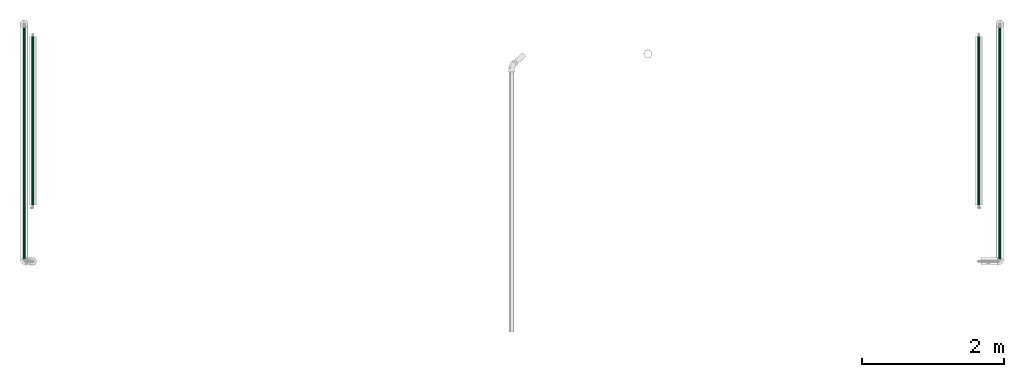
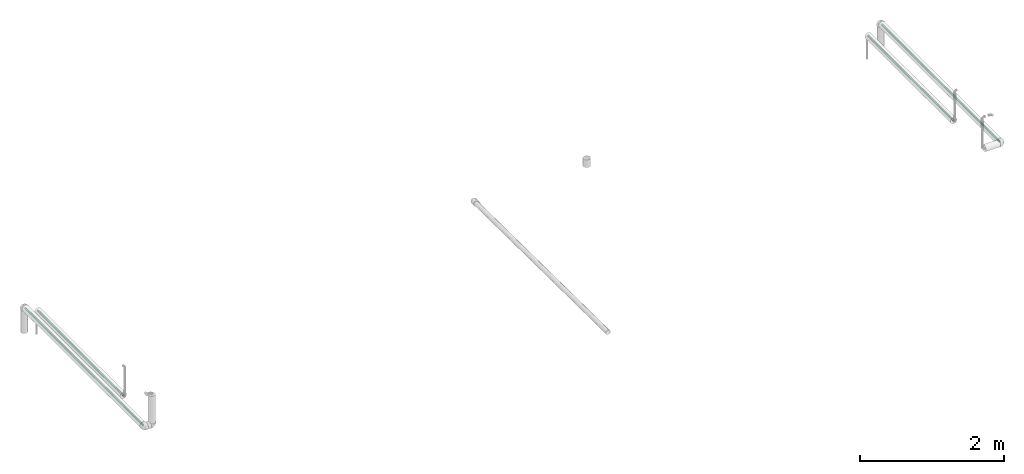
# One storey, part 4 of 17: 4 flow segments.
"""IFC2X3 building model written with IfcOpenShell, lengths in millimetres."""

from ifc_helpers import new_model, entity, si_unit, converted_unit, derived_unit, direction, frame, origin_with_axes, origin_2d_with_axis, place, context, subcontext, project, spatial, hollow_circle, extrude, source, transform, mapped, type_object, element, save


model = new_model("IFC2X3")

# Units and contexts
model_context = context("Model", 3, precision=0.01, world=frame((0.0, 4.29681676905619e-09, 0.0)), true_north=direction((4.01073788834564e-13, 1.0)))
plan_context = context("Plan", 3, precision=0.01, world=frame((0.0, 4.29681676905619e-09, 0.0)), true_north=direction((4.01073788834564e-13, 1.0)))
body_context = subcontext(model_context, "Body", "Model", "MODEL_VIEW")
ifc_project = project(units=[converted_unit("PLANEANGLEUNIT", "DEGREE", entity("IfcPositiveLengthMeasure", 0.0174532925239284), si_unit("PLANEANGLEUNIT", "RADIAN"), dimensions=[0, 0, 0, 0, 0, 0, 0]), si_unit("AREAUNIT", "SQUARE_METRE"), si_unit("LENGTHUNIT", "METRE", prefix="MILLI"), si_unit("MASSUNIT", "GRAM", prefix="KILO"), si_unit("POWERUNIT", "WATT"), si_unit("PRESSUREUNIT", "PASCAL", prefix="KILO"), si_unit("FORCEUNIT", "NEWTON", prefix="KILO"), si_unit("ELECTRICVOLTAGEUNIT", "VOLT"), si_unit("ELECTRICCURRENTUNIT", "AMPERE"), si_unit("THERMODYNAMICTEMPERATUREUNIT", "DEGREE_CELSIUS"), si_unit("TIMEUNIT", "SECOND"), si_unit("VOLUMEUNIT", "CUBIC_METRE"), derived_unit("LINEARVELOCITYUNIT", [(si_unit("LENGTHUNIT", "METRE"), 1), (si_unit("TIMEUNIT", "SECOND"), -1)]), derived_unit("VOLUMETRICFLOWRATEUNIT", [(si_unit("VOLUMEUNIT", "CUBIC_METRE"), 1), (si_unit("TIMEUNIT", "SECOND"), -1)]), derived_unit("THERMALTRANSMITTANCEUNIT", [(si_unit("POWERUNIT", "WATT"), 1), (si_unit("THERMODYNAMICTEMPERATUREUNIT", "KELVIN"), -1), (si_unit("AREAUNIT", "SQUARE_METRE"), -1)]), derived_unit("SOUNDPRESSUREUNIT", [(si_unit("PRESSUREUNIT", "PASCAL"), 1)])], contexts=[model_context, plan_context])

# Site, building, storey
site_placement = place(None, frame((0.0, -4.29681676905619e-09, 0.0), z_axis=(0.0, 0.0, 1.0), x_axis=(1.0, 0.0, 0.0)))
site = spatial("IfcSite", under=ifc_project, at=site_placement, Name="ENGM", CompositionType="ELEMENT")
building_placement = place(site_placement, frame((0.0, 4.29681676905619e-09, 0.0), z_axis=(0.0, 0.0, 1.0), x_axis=(1.0, 0.0, 0.0)))
building = spatial("IfcBuilding", under=site, at=building_placement, Name="TI", CompositionType="ELEMENT")
storey_placement = place(building_placement, frame((0.0, 0.0, 207370.0), z_axis=(0.0, 0.0, 1.0), x_axis=(1.0, 0.0, 0.0)))
storey = spatial("IfcBuildingStorey", under=building, at=storey_placement, Name="Nivå E", CompositionType="ELEMENT", Elevation=207370.0)

# Flow segments
pipe_segment_type = type_object("IfcPipeSegmentType", Name="Stålrør normaltykke", PredefinedType="RIGIDSEGMENT")
shared_shape_1 = source(origin_with_axes(), body_context, "Body", "SweptSolid", [
    extrude(hollow_circle(Radius=16.9, WallThickness=2.0, at=origin_2d_with_axis()), frame((0.0, 0.0, 0.0), z_axis=(1.0, 0.0, 0.0), x_axis=(0.0, 1.0, 0.0)), (0.0, 0.0, 1.0), 3263.5),
])
for number, where, z_axis, x_axis in (
    (1, (598969.96633, 574020.53084, 2946.86820999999), (-6.46234853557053e-27, 1.7999999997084e-05, 0.999999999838), (1.99999999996e-06, -0.999999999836, 1.7999999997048e-05)),
    (2, (585269.96633, 574020.53084, 2946.86820999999), (-6.46234853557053e-27, 1.7999999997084e-05, 0.999999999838), (1.99999999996e-06, -0.999999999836, 1.7999999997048e-05)),
):
    element("IfcFlowSegment", number, at=place(storey_placement, frame(where, z_axis=z_axis, x_axis=x_axis)), inside=storey, type_object=pipe_segment_type, Name="Stålrør normaltykke", context=body_context, shape_type="MappedRepresentation", body=[
        mapped(shared_shape_1, transform((0.0, 0.0, 0.0), scale=1.0)),
    ])
shared_shape_2 = source(origin_with_axes(), body_context, "Body", "SweptSolid", [
    extrude(hollow_circle(Radius=16.9, WallThickness=2.0, at=origin_2d_with_axis()), frame((0.0, 0.0, 0.0), z_axis=(1.0, 0.0, 0.0), x_axis=(0.0, 1.0, 0.0)), (0.0, 0.0, 1.0), 2370.4),
])
for number, where, z_axis, x_axis in (
    (3, (598669.97776, 573881.17054, 2946.87062), (-6.46234853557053e-27, 1.7999999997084e-05, 0.999999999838), (1.99999999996e-06, -0.999999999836, 1.7999999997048e-05)),
    (4, (585389.97776, 573881.17054, 2946.87062), (-6.46234853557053e-27, 1.7999999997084e-05, 0.999999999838), (1.99999999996e-06, -0.999999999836, 1.7999999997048e-05)),
):
    element("IfcFlowSegment", number, at=place(storey_placement, frame(where, z_axis=z_axis, x_axis=x_axis)), inside=storey, type_object=pipe_segment_type, Name="Stålrør normaltykke", context=body_context, shape_type="MappedRepresentation", body=[
        mapped(shared_shape_2, transform((0.0, 0.0, 0.0), scale=1.0)),
    ])

save(model, "model.ifc")
